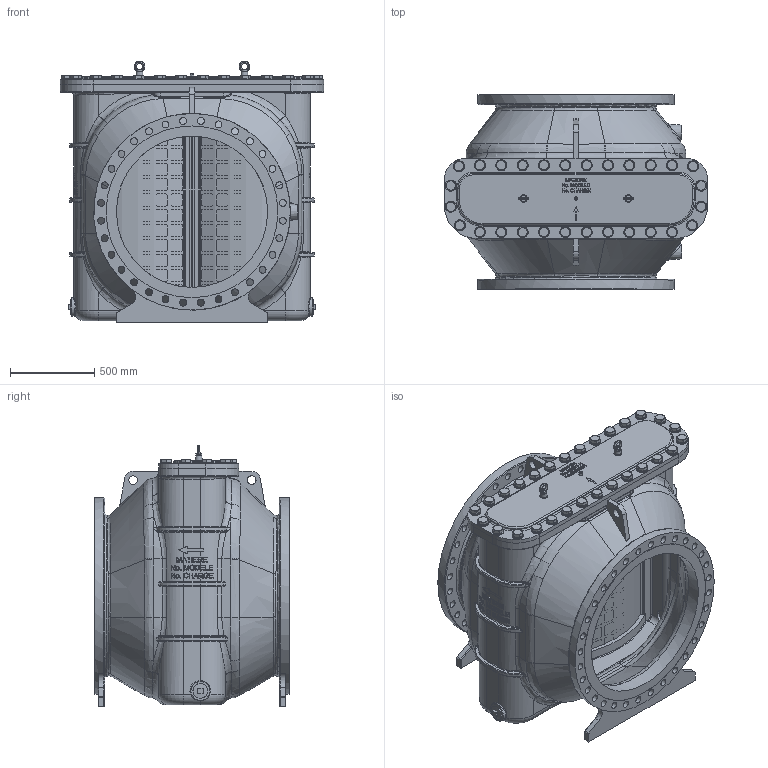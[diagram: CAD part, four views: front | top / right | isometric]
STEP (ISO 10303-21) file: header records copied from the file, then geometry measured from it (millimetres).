
FILE_DESCRIPTION(/* description */ ('AQUA 90-501 - 36" / ANSI 150RF'),/* implementation_level */ '2;1');
FILE_NAME(/* name */ 'G:\Doc_Liberes\SymbolesCAD\Modeles_3D\FichierSTP\Aqua\Aqua90501\FAB900-150RF.stp',/* time_stamp */ '2017-08-11T08:23:41+02:00',/* author */ ('sylvain'),/* organization */ (''),/* preprocessor_version */ 'ST-DEVELOPER v16.13',/* originating_system */ 'Autodesk Inventor 2018',/* authorisation */ '');
FILE_SCHEMA (('AUTOMOTIVE_DESIGN { 1 0 10303 214 3 1 1 }'));
Length unit declared in the file: millimetre
Products named in the file (14): FAB900-150RF; 300597-02; 300572-01; 300573-01; FABT-041; FABT-042; 300571-01; ISO 7089 - 36 - 140 HV; ISO 4017 - M36 x 70; 57576-02; 57576-07; 57507; DIN 580 - M16 x 1.5; DIN EN 10242 Bouchon mâle plat T8 3
Assembly tree (71 placements, depth 3):
  FAB900-150RF
    300597-02
    300572-01  x2
    300573-01  x2
      FABT-041
      FABT-042
    300571-01
    ISO 7089 - 36 - 140 HV  x28
    ISO 4017 - M36 x 70  x28
    DIN 580 - M16 x 1.5  x2
    57576-02
      57576-07
      57507
    DIN EN 10242 Bouchon mâle plat T8 3  x2
Bounding box: 1566 x 1160 x 1556.5 mm (x, y, z)
Volume: 276327177.7 mm3; surface area: 24283254.2 mm2
Topology: 70 solids, 70 shells, 4699 faces, 12265 edges, 7806 vertices
Faces by surface type: plane 1952, cylinder 1600, bspline 620, torus 244, cone 243, sphere 40
Full cylindrical faces by diameter (mm): 1.6 x1, 2.3 x1, 6.5 x1, 6.92 x1, 8 x1, 13.84 x2, 14 x1, 15 x2, 16 x2, 18.63 x1, 20.955 x1, 31.67 x28, 36 x28, 37 x28, 39 x28, 41.27 x64, 51.11 x28, 52 x2, 66 x28, 84.93 x2, 112 x2, 900 x2, 956 x2, 1022 x2, 1170 x2
Entity records: 126062 total; most frequent: CARTESIAN_POINT 47448, ORIENTED_EDGE 16654, DIRECTION 14611, EDGE_CURVE 8327, AXIS2_PLACEMENT_3D 5409, VERTEX_POINT 5363, EDGE_LOOP 3930, LINE 3793
